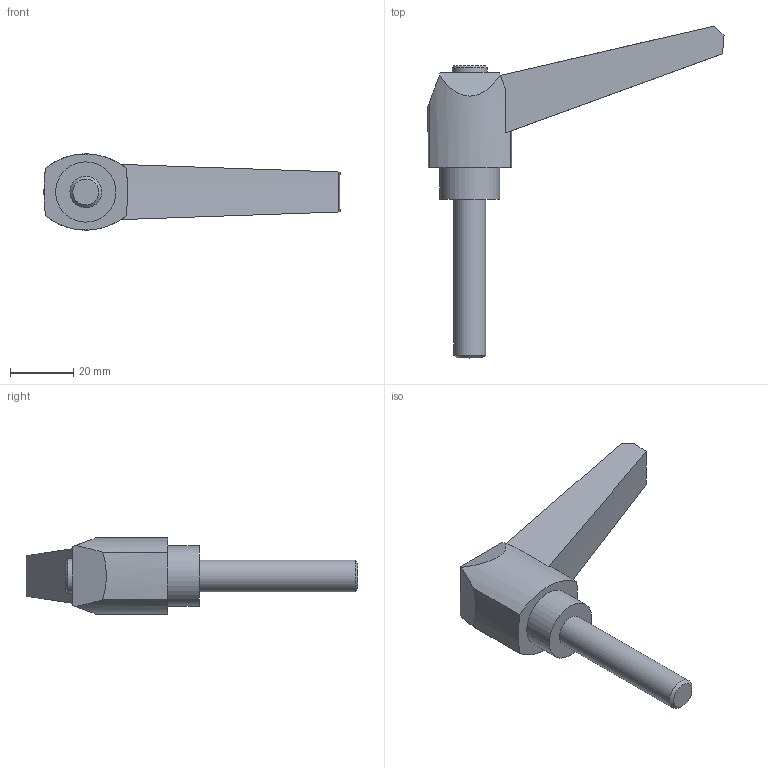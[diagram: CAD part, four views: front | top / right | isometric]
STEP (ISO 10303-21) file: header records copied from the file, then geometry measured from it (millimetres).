
FILE_DESCRIPTION( ( 'STEP AP203' ), '1' );
FILE_NAME( 'C:/Temp/Ganter_Step_05_03_2020/data/2_1/gn_500/gn_500_ms/Adjustable hand lever GN 500-80-M10-50-SW.stp', '2020-03-05T11:26:37', ( 'License CC BY-ND 4.0' ), ( 'CADENAS' ), ' ', 'PARTsolutions', ' ' );
FILE_SCHEMA( ( 'CONFIG_CONTROL_DESIGN' ) );
Length unit declared in the file: millimetre
Products named in the file (1): _Adjustable hand lever GN 500-80-M10-50-SW
Bounding box: 93.3 x 104.58 x 24 mm (x, y, z)
Volume: 36667.7 mm3; surface area: 9452.7 mm2
Topology: 1 solids, 1 shells, 24 faces, 56 edges, 37 vertices
Faces by surface type: plane 11, cylinder 7, cone 6
Full cylindrical faces by diameter (mm): 10 x1, 11 x1, 19 x1
Entity records: 709 total; most frequent: CARTESIAN_POINT 124, DIRECTION 118, ORIENTED_EDGE 100, EDGE_CURVE 50, AXIS2_PLACEMENT_3D 47, VERTEX_POINT 36, EDGE_LOOP 32, FACE_OUTER_BOUND 27
